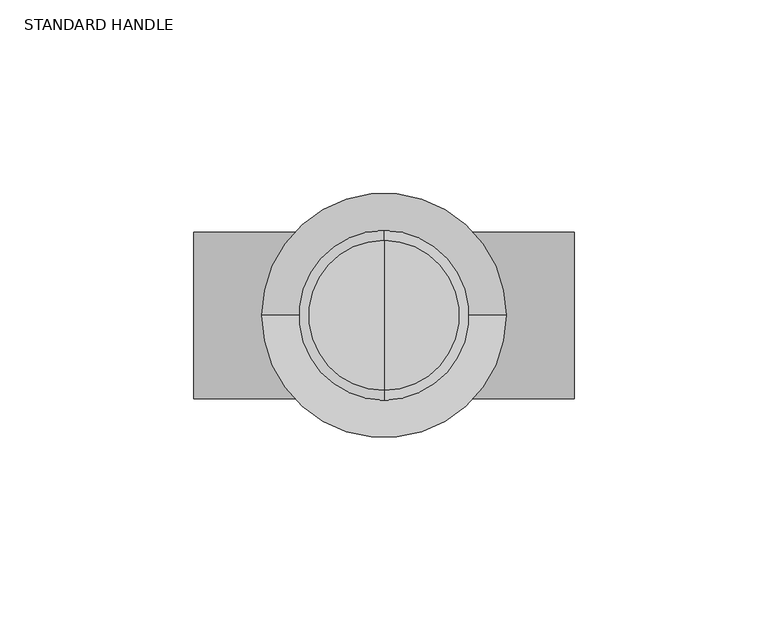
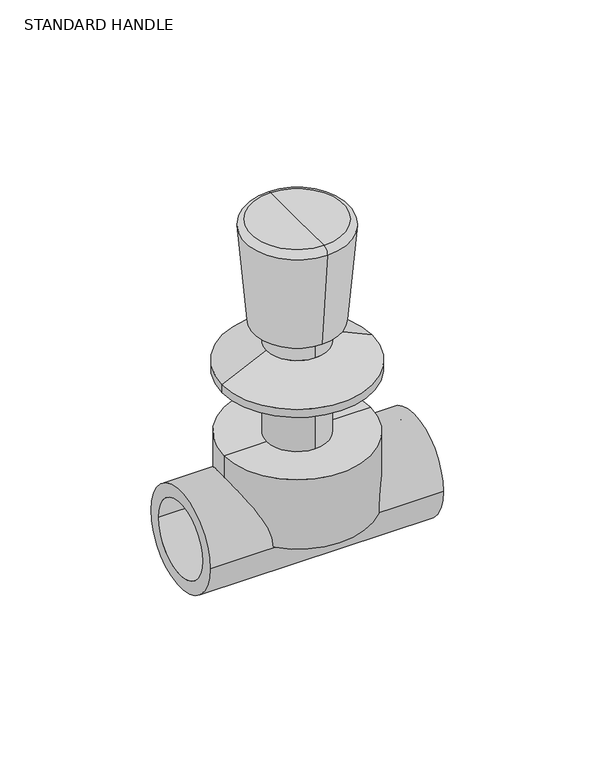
"""IFC4 building model written with IfcOpenShell, lengths in millimetres: valve geometry, Aquatherm - Concealed Valve Standard With Handle : STANDARD HANDLE."""

from ifc_helpers import new_model, si_unit, point, frame, origin, origin_2d, place, context, project, spatial, polyline, circle_curve, ellipse_curve, trimmed, segment, composite_curve, outline, extrude, source, transform, mapped, element, save
from ifc_brep_helpers import plane_surface, cylinder_surface, revolved_surface, advanced_brep


def standard_handle_2f82ab93(model_context):
    return source(origin(), model_context, "Body", "SolidModel", [
        advanced_brep(
        [(0.0, 19.3406564, 124.968), (0.0, -19.3406564, 124.968), (0.0, 0.0, 124.968), (0.0, 21.870991, 122.2066244), (0.0, -21.870991, 122.2066244), (0.0, 18.2125979, 80.391), (0.0, -18.2125979, 80.391), (0.0, 12.9442633, 80.391), (0.0, -12.9442633, 80.391), (0.0, 12.9442633, 71.181595), (0.0, -12.9442633, 71.181595), (0.0, 0.0, 71.181595)],
        [
            (0, 1, circle_curve(frame((0.0, 0.0, 124.968), z_axis=(0.0, 0.0, 1.0), x_axis=(0.0, -1.0, 0.0)), 19.3406564)),
            (1, 2),
            (2, 0),
            (1, 0, circle_curve(frame((0.0, 0.0, 124.968), z_axis=(0.0, 0.0, 1.0), x_axis=(0.0, -1.0, 0.0)), 19.3406564)),
            (3, 4, circle_curve(frame((0.0, 0.0, 122.2066244), z_axis=(0.0, 0.0, 1.0), x_axis=(0.0, -1.0, 0.0)), 21.870991)),
            (4, 1, circle_curve(frame((0.0, -19.3406564, 122.428), z_axis=(-1.0, 0.0, 0.0), x_axis=(0.0, -1.0, 0.0)), 2.54)),
            (0, 3, circle_curve(frame((0.0, 19.3406564, 122.428), z_axis=(-1.0, 0.0, 0.0), x_axis=(0.0, 1.0, 0.0)), 2.54)),
            (4, 3, circle_curve(frame((0.0, 0.0, 122.2066244), z_axis=(0.0, 0.0, 1.0), x_axis=(0.0, -1.0, 0.0)), 21.870991)),
            (5, 6, circle_curve(frame((0.0, 0.0, 80.391), z_axis=(0.0, 0.0, 1.0), x_axis=(0.0, -1.0, 0.0)), 18.2125979)),
            (6, 4),
            (3, 5),
            (6, 5, circle_curve(frame((0.0, 0.0, 80.391), z_axis=(0.0, 0.0, 1.0), x_axis=(0.0, -1.0, 0.0)), 18.2125979)),
            (7, 8, circle_curve(frame((0.0, 0.0, 80.391), z_axis=(0.0, 0.0, 1.0), x_axis=(0.0, -1.0, 0.0)), 12.9442633)),
            (8, 6),
            (5, 7),
            (8, 7, circle_curve(frame((0.0, 0.0, 80.391), z_axis=(0.0, 0.0, 1.0), x_axis=(0.0, -1.0, 0.0)), 12.9442633)),
            (9, 10, circle_curve(frame((0.0, 0.0, 71.181595), z_axis=(0.0, 0.0, 1.0), x_axis=(0.0, -1.0, 0.0)), 12.9442633)),
            (10, 8),
            (7, 9),
            (10, 9, circle_curve(frame((0.0, 0.0, 71.181595), z_axis=(0.0, 0.0, 1.0), x_axis=(0.0, -1.0, 0.0)), 12.9442633)),
            (11, 10),
            (9, 11),
        ],
        [
            plane_surface(frame((0.0, 0.0, 124.968), z_axis=(0.0, 0.0, 1.0), x_axis=(0.0, -1.0, 0.0))),
            revolved_surface(trimmed(ellipse_curve(frame((0.0, -19.3406564, 122.428), z_axis=(1.0, 0.0, 0.0), x_axis=(0.0, -1.0, 0.0)), 2.54, 2.54), [point((0.0, -19.3406564, 124.968))], [point((0.0, -21.870991, 122.2066244))], True, "CARTESIAN"), (0.0, 0.0, 147.5476097), (0.0, 0.0, -1.0)),
            revolved_surface(polyline([(0.0, -21.870991, 122.2066244), (0.0, -18.2125979, 80.391)]), (0.0, 0.0, 147.5476097), (0.0, 0.0, -1.0)),
            plane_surface(frame((0.0, 0.0, 80.391), z_axis=(0.0, 0.0, -1.0), x_axis=(0.0, -1.0, 0.0))),
            cylinder_surface(frame((0.0, 0.0, 147.5476097), z_axis=(0.0, 0.0, -1.0), x_axis=(0.0, -1.0, 0.0)), 12.9442633),
            plane_surface(frame((0.0, 0.0, 71.181595), z_axis=(0.0, 0.0, -1.0), x_axis=(0.0, -1.0, 0.0))),
        ],
        [
            (0, [[1, 2, 3]]),
            (0, [[4, -3, -2]]),
            (1, [[5, 6, -1, 7]]),
            (1, [[8, -7, -4, -6]]),
            (2, [[9, 10, -5, 11]]),
            (2, [[12, -11, -8, -10]]),
            (3, [[13, 14, -9, 15]]),
            (3, [[16, -15, -12, -14]]),
            (4, [[17, 18, -13, 19]]),
            (4, [[20, -19, -16, -18]]),
            (5, [[21, -17, 22]]),
            (5, [[-22, -20, -21]]),
        ],
    ),
        advanced_brep(
        [(-12.827, 0.0, 71.181595), (12.827, 0.0, 71.181595), (-31.496, 0.0, 62.4797667), (31.496, 0.0, 62.4797667)],
        [
            (0, 1, circle_curve(frame((0.0, 0.0, 71.181595), z_axis=(0.0, 0.0, 1.0), x_axis=(-1.0, 0.0, 0.0)), 12.827)),
            (1, 0, circle_curve(frame((0.0, 0.0, 71.181595), z_axis=(0.0, 0.0, 1.0), x_axis=(1.0, 0.0, 0.0)), 12.827)),
            (2, 3, circle_curve(frame((0.0, 0.0, 62.4797667), z_axis=(0.0, 0.0, -1.0), x_axis=(1.0, 0.0, 0.0)), 31.496)),
            (3, 2, circle_curve(frame((0.0, 0.0, 62.4797667), z_axis=(0.0, 0.0, -1.0), x_axis=(-1.0, 0.0, 0.0)), 31.496)),
            (3, 1),
            (0, 2),
        ],
        [
            plane_surface(frame((0.0, 0.0, 71.181595), z_axis=(0.0, 0.0, 1.0), x_axis=(0.0, -1.0, 0.0))),
            plane_surface(frame((0.0, 0.0, 62.4797667), z_axis=(0.0, 0.0, -1.0), x_axis=(0.0, -1.0, 0.0))),
            revolved_surface(polyline([(-12.827000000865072, 0.0, 71.181595), (-31.496, 0.0, 62.4797667)]), (0.0, 0.0, 77.1604022), (0.0, 0.0, -1.0)),
            revolved_surface(polyline([(12.827000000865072, 0.0, 71.181595), (31.496, 0.0, 62.4797667)]), (0.0, 0.0, 77.1604022), (0.0, 0.0, -1.0)),
        ],
        [
            (0, [[1, 2]]),
            (1, [[3, 4]]),
            (2, [[-4, 5, -1, 6]]),
            (3, [[-3, -6, -2, -5]]),
        ],
    ),
        extrude(outline(composite_curve([segment(trimmed(circle_curve(origin_2d(), 31.496), [point((-31.496, 0.0))], [point((31.496, 0.0))], False, "CARTESIAN"), True, "CONTINUOUS"), segment(trimmed(circle_curve(origin_2d(), 31.496), [point((31.496, 0.0))], [point((-31.496, 0.0))], False, "CARTESIAN"), True, "CONTINUOUS")], self_intersect=False)), frame((0.0, 0.0, 58.928), z_axis=(0.0, 0.0, 1.0), x_axis=(1.0, 0.0, 0.0)), (0.0, 0.0, 1.0), 3.5517667),
        extrude(outline(composite_curve([segment(trimmed(circle_curve(origin_2d(), 12.827), [point((0.0, 12.827))], [point((0.0, -12.827))], False, "CARTESIAN"), True, "CONTINUOUS"), segment(trimmed(circle_curve(origin_2d(), 12.827), [point((0.0, -12.827))], [point((0.0, 12.827))], False, "CARTESIAN"), True, "CONTINUOUS")], self_intersect=False)), frame((0.0, 0.0, 30.734), z_axis=(0.0, 0.0, 1.0), x_axis=(1.0, 0.0, 0.0)), (0.0, 0.0, 1.0), 28.194),
        advanced_brep(
        [(0.0, 0.0, 30.734), (30.734, 0.0, 30.734), (-30.734, 0.0, 30.734), (-30.734, 0.0, 0.0), (30.734, 0.0, 0.0), (0.0, 0.0, 0.0)],
        [
            (0, 1),
            (1, 2, circle_curve(frame((0.0, 0.0, 30.734), z_axis=(0.0, 0.0, 1.0), x_axis=(1.0, 0.0, 0.0)), 30.734)),
            (2, 0),
            (2, 1, circle_curve(frame((0.0, 0.0, 30.734), z_axis=(0.0, 0.0, 1.0), x_axis=(1.0, 0.0, 0.0)), 30.734)),
            (3, 4, circle_curve(frame((0.0, 0.0, 0.0), z_axis=(0.0, 0.0, -1.0), x_axis=(1.0, 0.0, 0.0)), 30.734)),
            (4, 5),
            (5, 3),
            (4, 3, circle_curve(frame((0.0, 0.0, 0.0), z_axis=(0.0, 0.0, -1.0), x_axis=(1.0, 0.0, 0.0)), 30.734)),
            (1, 4),
            (3, 2),
        ],
        [
            plane_surface(frame((0.0, 0.0, 30.734), z_axis=(0.0, 0.0, 1.0), x_axis=(1.0, 0.0, 0.0))),
            plane_surface(frame((0.0, 0.0, 0.0), z_axis=(0.0, 0.0, -1.0), x_axis=(1.0, 0.0, 0.0))),
            cylinder_surface(frame((0.0, 0.0, 60.5254888), z_axis=(0.0, 0.0, 1.0), x_axis=(1.0, 0.0, 0.0)), 30.734),
        ],
        [
            (0, [[1, 2, 3]]),
            (0, [[-3, 4, -1]]),
            (1, [[5, 6, 7]]),
            (1, [[8, -7, -6]]),
            (2, [[-2, 9, -5, 10]]),
            (2, [[-4, -10, -8, -9]]),
        ],
    ),
        extrude(outline(composite_curve([segment(trimmed(circle_curve(origin_2d(), 21.463), [point((-21.463, 0.0))], [point((21.463, 0.0))], False, "CARTESIAN"), True, "CONTINUOUS"), segment(trimmed(circle_curve(origin_2d(), 21.463), [point((21.463, 0.0))], [point((-21.463, 0.0))], False, "CARTESIAN"), True, "CONTINUOUS")], self_intersect=False), holes=[composite_curve([segment(trimmed(circle_curve(origin_2d(), 16.002), [point((-16.002, 0.0))], [point((16.002, 0.0))], True, "CARTESIAN"), True, "CONTINUOUS"), segment(trimmed(circle_curve(origin_2d(), 16.002), [point((16.002, 0.0))], [point((-16.002, 0.0))], True, "CARTESIAN"), True, "CONTINUOUS")], self_intersect=False)]), frame((-49.022, 0.0, 0.0), z_axis=(1.0, 0.0, 0.0), x_axis=(0.0, 1.0, 0.0)), (0.0, 0.0, 1.0), 98.044),
    ])


if __name__ == "__main__":
    model = new_model("IFC4")
    model_context = context("Model", 3, world=origin())
    ifc_project = project(units=[si_unit("LENGTHUNIT", "METRE", prefix="MILLI")], contexts=[model_context])
    site = spatial("IfcSite", under=ifc_project)
    building = spatial("IfcBuilding", under=site)
    placement = place(None, origin())
    standard_handle_shape = standard_handle_2f82ab93(model_context)
    element("IfcValve", 1, ObjectType="Aquatherm - Concealed Valve Standard With Handle : STANDARD HANDLE", at=placement, inside=building, context=model_context, shape_type="MappedRepresentation", body=[
        mapped(standard_handle_shape, transform((0.0, 0.0, 0.0), x_axis=(1.0, 0.0, 0.0), y_axis=(0.0, 1.0, 0.0), z_axis=(0.0, 0.0, 1.0))),
    ])
    save(model, "model.ifc")
